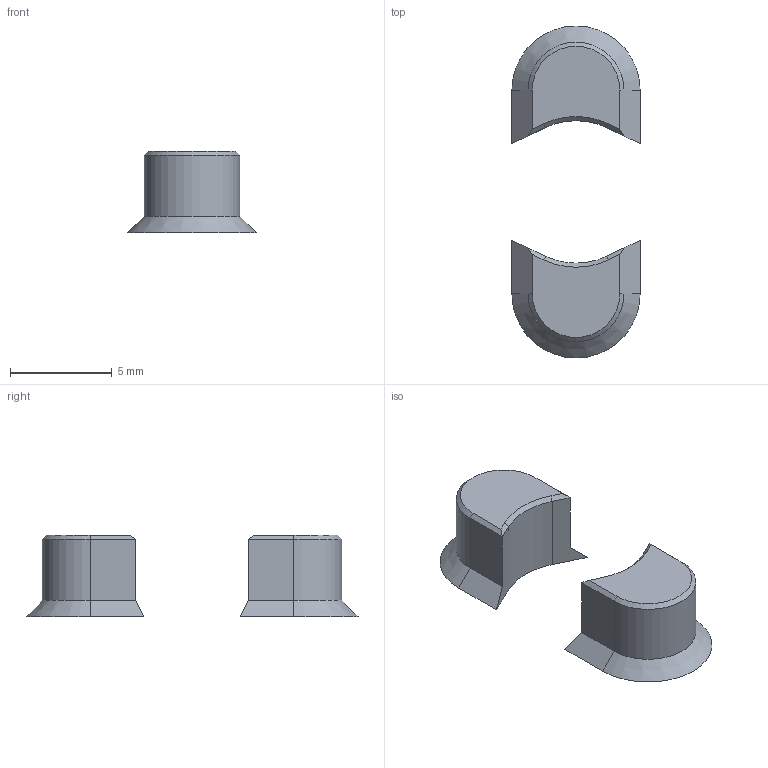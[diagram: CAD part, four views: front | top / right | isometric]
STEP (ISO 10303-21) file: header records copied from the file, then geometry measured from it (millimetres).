
FILE_DESCRIPTION(/* description */ ('STEP AP242','CAx-IF Rec.Pracs.---Representation and Presentation of Product Manufacturing Information (PMI)---4.0---2014-10-13','CAx-IF Rec.Pracs.---3D Tessellated Geometry---0.4---2014-09-14','2;1'),/* implementation_level */ '2;1');
FILE_NAME(/* name */ '649a8f9904a6637e630d4d93',/* time_stamp */ '2023-06-27T07:28:26Z',/* author */ (''),/* organization */ (''),/* preprocessor_version */ 'ST-DEVELOPER v19.4',/* originating_system */ ' ',/* authorisation */ ' ');
FILE_SCHEMA (('AP242_MANAGED_MODEL_BASED_3D_ENGINEERING_MIM_LF { 1 0 10303 442 1 1 4 }'));
Length unit declared in the file: metre
Products named in the file (2): Alignment Guide Top 2; Alignment Guide Top 1
Bounding box: 6.3 x 16.3 x 4 mm (x, y, z)
Volume: 143.4 mm3; surface area: 233.2 mm2
Topology: 2 solids, 2 shells, 34 faces, 74 edges, 44 vertices
Faces by surface type: plane 24, cone 6, cylinder 4
Entity records: 951 total; most frequent: DIRECTION 160, CARTESIAN_POINT 154, ORIENTED_EDGE 148, EDGE_CURVE 74, LINE 60, VECTOR 60, AXIS2_PLACEMENT_3D 50, VERTEX_POINT 44
